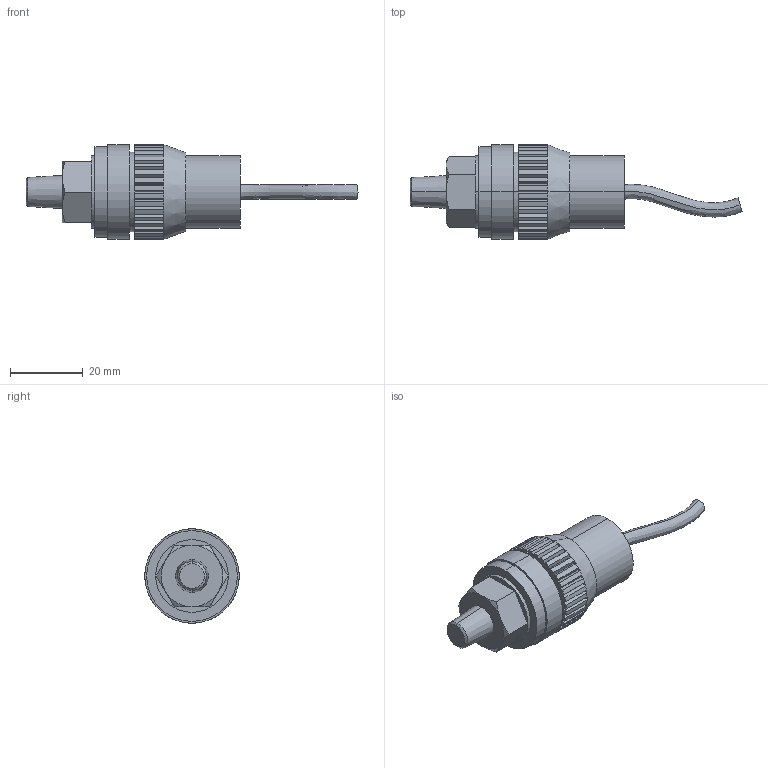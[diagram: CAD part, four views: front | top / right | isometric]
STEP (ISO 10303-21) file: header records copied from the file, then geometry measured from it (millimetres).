
FILE_DESCRIPTION (( 'STEP AP203' ), '1' );
FILE_NAME ('PS-6-1.STEP', '2016-08-03T02:44:40', ( '' ), ( '' ), 'SwSTEP 2.0', 'SolidWorks 2014', '' );
FILE_SCHEMA (( 'CONFIG_CONTROL_DESIGN' ));
Length unit declared in the file: millimetre
Products named in the file (1): PS-6-1
Bounding box: 91.46 x 26 x 26 mm (x, y, z)
Volume: 20259.3 mm3; surface area: 5671.9 mm2
Topology: 1 solids, 1 shells, 184 faces, 442 edges, 268 vertices
Faces by surface type: plane 124, cylinder 46, cone 6, torus 6, bspline 2
Entity records: 5571 total; most frequent: CARTESIAN_POINT 1151, DIRECTION 942, ORIENTED_EDGE 884, EDGE_CURVE 442, AXIS2_PLACEMENT_3D 331, VECTOR 280, LINE 280, VERTEX_POINT 268
